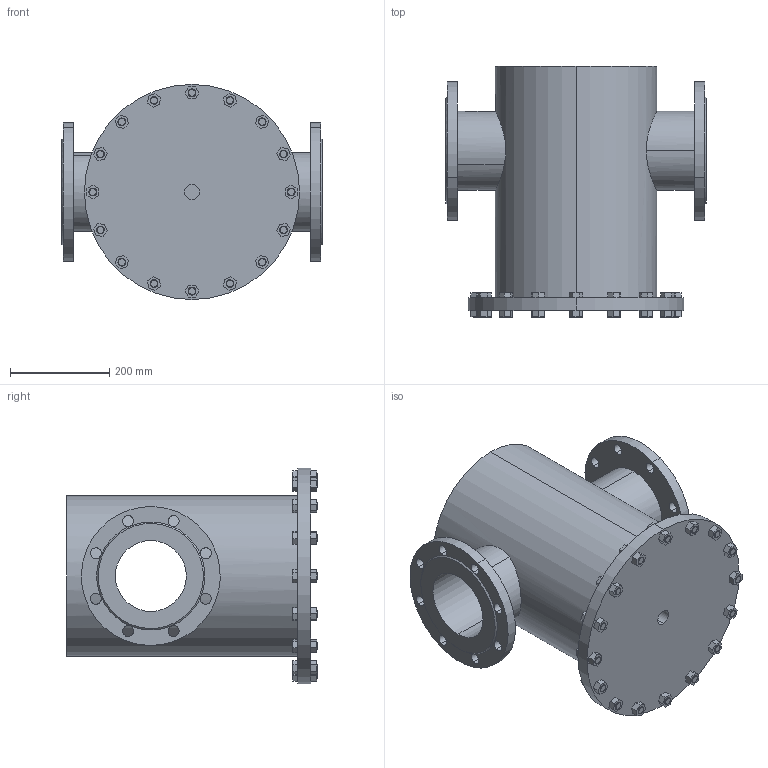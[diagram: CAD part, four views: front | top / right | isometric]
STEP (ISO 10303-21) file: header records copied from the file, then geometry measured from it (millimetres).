
FILE_DESCRIPTION (( 'STEP AP214' ), '1' );
FILE_NAME ('DN150 PN10.STEP', '2025-08-08T13:44:09', ( '' ), ( '' ), 'SwSTEP 2.0', 'SolidWorks 2023', '' );
FILE_SCHEMA (( 'AUTOMOTIVE_DESIGN' ));
Length unit declared in the file: millimetre
Products named in the file (1): DN150 PN10
Bounding box: 526 x 506 x 434 mm (x, y, z)
Volume: 39526447 mm3; surface area: 1355107.1 mm2
Topology: 1 solids, 1 shells, 340 faces, 864 edges, 568 vertices
Faces by surface type: plane 252, cylinder 52, cone 36
Entity records: 11173 total; most frequent: CARTESIAN_POINT 2121, DIRECTION 1738, ORIENTED_EDGE 1728, EDGE_CURVE 864, LINE 664, VECTOR 664, VERTEX_POINT 568, AXIS2_PLACEMENT_3D 537
